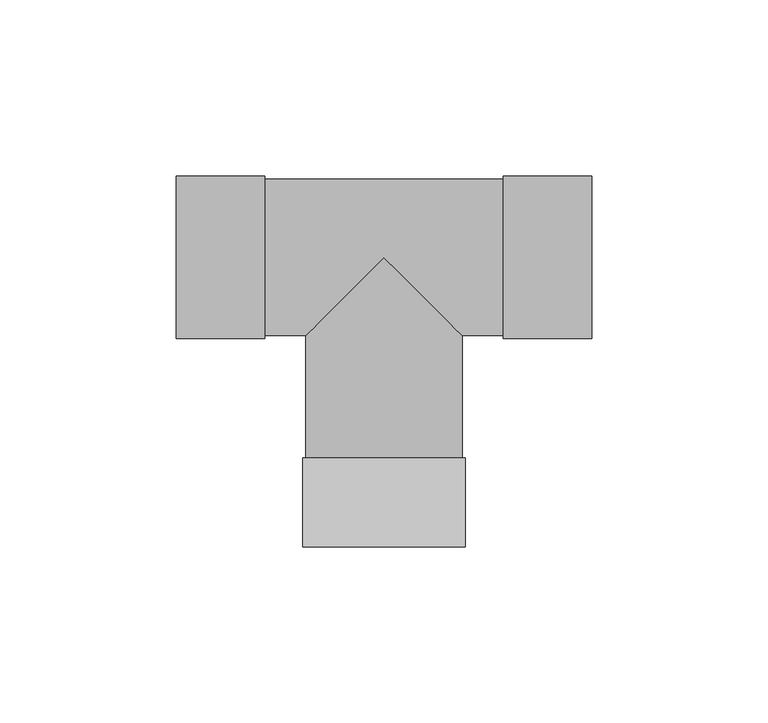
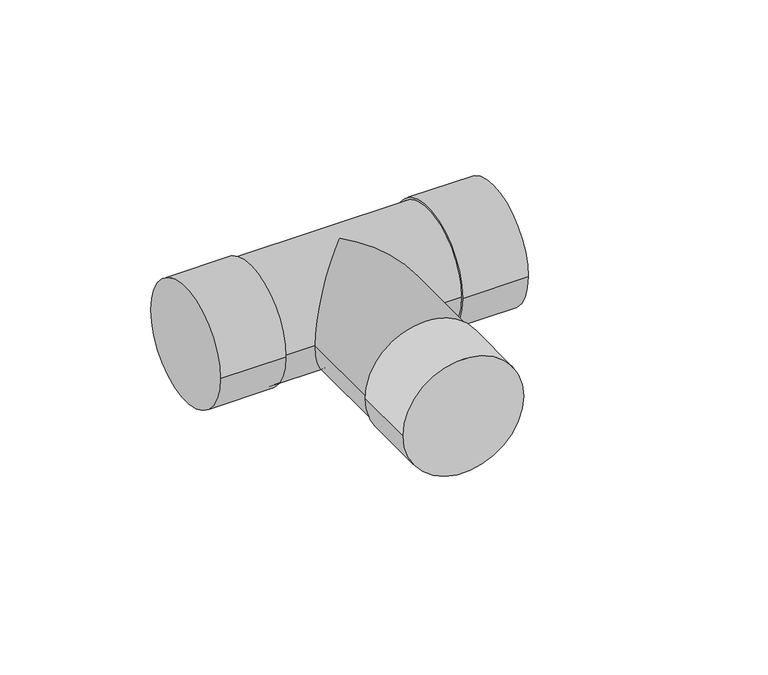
"""IFC4 building model written with IfcOpenShell, lengths in millimetres: pipe fitting geometry, Tê - Soldado - CU : Padrão."""

from ifc_helpers import new_model, si_unit, frame, origin, place, context, project, spatial, circle_curve, ellipse_curve, source, transform, mapped, element, save
from ifc_brep_helpers import plane_surface, cylinder_surface, advanced_brep


def pipe_fitting_ab0eaa7c(model_context):
    return source(origin(), model_context, "Body", "AdvancedBrep", [
        advanced_brep(
        [(23.0651086, -82.1299695, 0.0), (-23.0648914, -82.1300305, 0.0), (23.0650754, -57.0049695, 0.0), (-23.0649246, -57.0050305, 0.0), (22.2500754, -57.0049706, 0.0), (-22.2499246, -57.0050294, 0.0), (-58.9425, -23.065, 0.0), (-58.9425, 23.065, 0.0), (-33.8175, -23.065, 0.0), (-33.8175, 23.065, 0.0), (-33.8175, -22.25, 0.0), (-33.8175, 22.25, 0.0), (33.8175, 22.25, 0.0), (-22.2499706, -22.25, 0.0), (0.0, 0.0, 22.25), (22.2500294, -22.25, 0.0), (33.8175, -22.25, 0.0), (0.0, 0.0, -22.25), (33.8175, -23.065, 0.0), (33.8175, 23.065, 0.0), (58.9425, -23.065, 0.0), (58.9425, 23.065, 0.0)],
        [
            (0, 1, circle_curve(frame((0.0001086, -82.13, 0.0), z_axis=(1.321994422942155e-06, -0.9999999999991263, 0.0), x_axis=(-0.9999999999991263, -1.321994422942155e-06, 0.0)), 23.065)),
            (1, 0, circle_curve(frame((0.0001086, -82.13, 0.0), z_axis=(1.321994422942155e-06, -0.9999999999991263, 0.0), x_axis=(-0.9999999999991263, -1.321994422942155e-06, 0.0)), 23.065)),
            (2, 3, circle_curve(frame((7.54e-05, -57.005, 0.0), z_axis=(-1.321994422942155e-06, 0.9999999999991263, 0.0), x_axis=(-0.9999999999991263, -1.321994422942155e-06, 0.0)), 23.065)),
            (3, 2, circle_curve(frame((7.54e-05, -57.005, 0.0), z_axis=(-1.321994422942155e-06, 0.9999999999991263, 0.0), x_axis=(-0.9999999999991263, -1.321994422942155e-06, 0.0)), 23.065)),
            (4, 5, circle_curve(frame((7.54e-05, -57.005, 0.0), z_axis=(1.321994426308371e-06, -0.9999999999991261, 0.0), x_axis=(0.9999999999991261, 1.321994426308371e-06, 0.0)), 22.25)),
            (5, 4, circle_curve(frame((7.54e-05, -57.005, 0.0), z_axis=(1.321994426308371e-06, -0.9999999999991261, 0.0), x_axis=(0.9999999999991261, 1.321994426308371e-06, 0.0)), 22.25)),
            (0, 2),
            (3, 1),
            (6, 7, circle_curve(frame((-58.9425, 0.0, 0.0), z_axis=(-1.0, 0.0, 0.0), x_axis=(0.0, 1.0, 0.0)), 23.065)),
            (7, 6, circle_curve(frame((-58.9425, 0.0, 0.0), z_axis=(-1.0, 0.0, 0.0), x_axis=(0.0, 1.0, 0.0)), 23.065)),
            (8, 9, circle_curve(frame((-33.8175, 0.0, 0.0), z_axis=(1.0, 0.0, 0.0), x_axis=(0.0, 1.0, 0.0)), 23.065)),
            (9, 8, circle_curve(frame((-33.8175, 0.0, 0.0), z_axis=(1.0, 0.0, 0.0), x_axis=(0.0, 1.0, 0.0)), 23.065)),
            (10, 11, circle_curve(frame((-33.8175, 0.0, 0.0), z_axis=(-1.0, 0.0, 0.0), x_axis=(0.0, 1.0, 0.0)), 22.25)),
            (11, 10, circle_curve(frame((-33.8175, 0.0, 0.0), z_axis=(-1.0, 0.0, 0.0), x_axis=(0.0, 1.0, 0.0)), 22.25)),
            (6, 8),
            (9, 7),
            (12, 11),
            (10, 13),
            (13, 14, ellipse_curve(frame((0.0, 0.0, 0.0), z_axis=(-0.7071072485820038, 0.7071063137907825, 0.0), x_axis=(-0.7071063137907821, -0.707107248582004, 0.0)), 31.466231, 22.25)),
            (14, 15, ellipse_curve(frame((0.0, 0.0, 0.0), z_axis=(0.7071063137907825, 0.7071072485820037, 0.0), x_axis=(-0.7071072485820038, 0.7071063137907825, 0.0)), 31.4662726, 22.25)),
            (15, 16),
            (16, 12, circle_curve(frame((33.8175, 0.0, 0.0), z_axis=(-1.0, 0.0, 0.0), x_axis=(0.0, 1.0, 0.0)), 22.25)),
            (12, 16, circle_curve(frame((33.8175, 0.0, 0.0), z_axis=(-1.0, 0.0, 0.0), x_axis=(0.0, 1.0, 0.0)), 22.25)),
            (15, 17, ellipse_curve(frame((0.0, 0.0, 0.0), z_axis=(0.7071063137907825, 0.7071072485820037, 0.0), x_axis=(-0.7071072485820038, 0.7071063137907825, 0.0)), 31.4662726, 22.25)),
            (17, 13, ellipse_curve(frame((0.0, 0.0, 0.0), z_axis=(-0.7071072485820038, 0.7071063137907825, 0.0), x_axis=(-0.7071063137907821, -0.707107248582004, 0.0)), 31.466231, 22.25)),
            (18, 19, circle_curve(frame((33.8175, 0.0, 0.0), z_axis=(-1.0, 0.0, 0.0), x_axis=(0.0, 1.0, 0.0)), 23.065)),
            (19, 18, circle_curve(frame((33.8175, 0.0, 0.0), z_axis=(-1.0, 0.0, 0.0), x_axis=(0.0, 1.0, 0.0)), 23.065)),
            (20, 21, circle_curve(frame((58.9425, 0.0, 0.0), z_axis=(1.0, 0.0, 0.0), x_axis=(0.0, 1.0, 0.0)), 23.065)),
            (21, 20, circle_curve(frame((58.9425, 0.0, 0.0), z_axis=(1.0, 0.0, 0.0), x_axis=(0.0, 1.0, 0.0)), 23.065)),
            (18, 20),
            (21, 19),
            (4, 15),
            (13, 5),
        ],
        [
            plane_surface(frame((0.0001086, -82.13, 0.0), z_axis=(1.3219944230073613e-06, -0.9999999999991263, 0.0), x_axis=(0.0, 0.0, 1.0))),
            plane_surface(frame((7.54e-05, -57.005, 0.0), z_axis=(-1.3219944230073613e-06, 0.9999999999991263, 0.0), x_axis=(0.0, 0.0, 1.0))),
            cylinder_surface(frame((0.0001086, -82.13, 0.0), z_axis=(1.321994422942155e-06, -0.9999999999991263, 0.0), x_axis=(-0.9999999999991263, -1.321994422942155e-06, 0.0)), 23.065),
            plane_surface(frame((-58.9425, 0.0, 0.0), z_axis=(-1.0, 0.0, 0.0), x_axis=(0.0, 0.0, 1.0))),
            plane_surface(frame((-33.8175, 0.0, 0.0), z_axis=(1.0, 0.0, 0.0), x_axis=(0.0, 0.0, 1.0))),
            cylinder_surface(frame((-58.9425, 0.0, 0.0), z_axis=(-1.0, 0.0, 0.0), x_axis=(0.0, 1.0, 0.0)), 23.065),
            cylinder_surface(frame((-33.8175, 0.0, 0.0), z_axis=(-1.0, 0.0, 0.0), x_axis=(0.0, 1.0, 0.0)), 22.25),
            plane_surface(frame((33.8175, 0.0, 0.0), z_axis=(-1.0, 0.0, 0.0), x_axis=(0.0, 0.0, 1.0))),
            plane_surface(frame((58.9425, 0.0, 0.0), z_axis=(1.0, 0.0, 0.0), x_axis=(0.0, 0.0, 1.0))),
            cylinder_surface(frame((33.8175, 0.0, 0.0), z_axis=(-1.0, 0.0, 0.0), x_axis=(0.0, 1.0, 0.0)), 23.065),
            cylinder_surface(frame((0.0, 0.0, 0.0), z_axis=(-1.321994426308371e-06, 0.9999999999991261, 0.0), x_axis=(0.9999999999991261, 1.321994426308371e-06, 0.0)), 22.25),
        ],
        [
            (0, [[1, 2]]),
            (1, [[3, 4], [5, 6]]),
            (2, [[-1, 7, -4, 8]]),
            (2, [[-2, -8, -3, -7]]),
            (3, [[9, 10]]),
            (4, [[11, 12], [13, 14]]),
            (5, [[-9, 15, -12, 16]]),
            (5, [[-10, -16, -11, -15]]),
            (6, [[17, -13, 18, 19, 20, 21, 22]]),
            (6, [[-17, 23, -21, 24, 25, -18, -14]]),
            (7, [[26, 27], [-22, -23]]),
            (8, [[28, 29]]),
            (9, [[-26, 30, -29, 31]]),
            (9, [[-27, -31, -28, -30]]),
            (10, [[32, -20, -19, 33, -5]]),
            (10, [[-32, -6, -33, -25, -24]]),
        ],
    ),
    ])


if __name__ == "__main__":
    model = new_model("IFC4")
    model_context = context("Model", 3, world=origin())
    ifc_project = project(units=[si_unit("LENGTHUNIT", "METRE", prefix="MILLI")], contexts=[model_context])
    site = spatial("IfcSite", under=ifc_project)
    building = spatial("IfcBuilding", under=site)
    placement = place(None, origin())
    pipe_fitting_shape = pipe_fitting_ab0eaa7c(model_context)
    element("IfcPipeFitting", 1, ObjectType="Tê - Soldado - CU : Padrão", at=placement, inside=building, context=model_context, shape_type="MappedRepresentation", body=[
        mapped(pipe_fitting_shape, transform((0.0, 0.0, 0.0), x_axis=(1.0, 0.0, 0.0), y_axis=(0.0, 1.0, 0.0), z_axis=(0.0, 0.0, 1.0))),
    ])
    save(model, "model.ifc")
